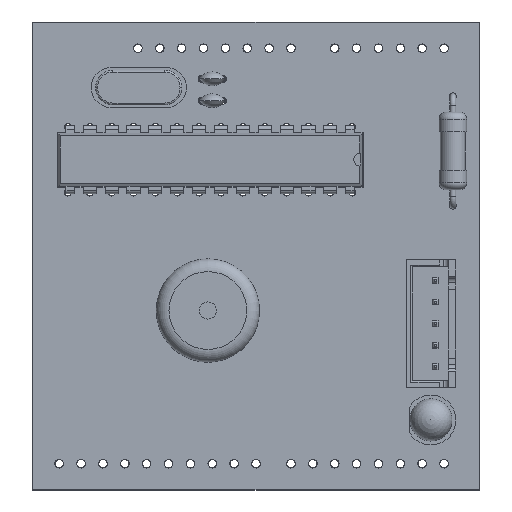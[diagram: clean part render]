
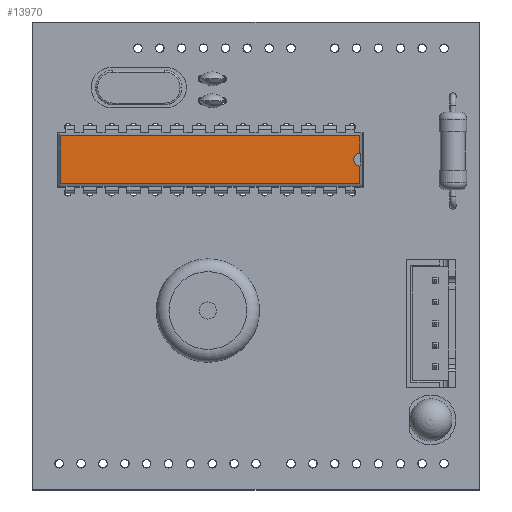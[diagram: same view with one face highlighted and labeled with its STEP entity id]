
A CAD part, top view. The second image highlights one B-rep face of the part: STEP entity #13970.
In plain terms, the highlighted planar face has unit normal (0, 0, 1).
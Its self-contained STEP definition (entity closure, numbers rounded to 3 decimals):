
#7988 = VERTEX_POINT('',#7989);
#7989 = CARTESIAN_POINT('',(6.586,0.871,3.68));
#7994 = EDGE_CURVE('',#7995,#7988,#7997,.T.);
#7995 = VERTEX_POINT('',#7996);
#7996 = CARTESIAN_POINT('',(6.586,-33.891,3.68));
#7997 = LINE('',#7998,#7999);
#7998 = CARTESIAN_POINT('',(6.586,-33.891,3.68));
#7999 = VECTOR('',#8000,1.);
#8000 = DIRECTION('',(0.,1.,0.));
#10754 = VERTEX_POINT('',#10755);
#10755 = CARTESIAN_POINT('',(1.034,0.871,3.68));
#10760 = EDGE_CURVE('',#10761,#10754,#10763,.T.);
#10761 = VERTEX_POINT('',#10762);
#10762 = CARTESIAN_POINT('',(3.064,0.871,3.68));
#10763 = LINE('',#10764,#10765);
#10764 = CARTESIAN_POINT('',(6.586,0.871,3.68));
#10765 = VECTOR('',#10766,1.);
#10766 = DIRECTION('',(-1.,0.,0.));
#10981 = VERTEX_POINT('',#10982);
#10982 = CARTESIAN_POINT('',(4.556,0.871,3.68));
#11086 = EDGE_CURVE('',#7988,#10981,#11087,.T.);
#11087 = LINE('',#11088,#11089);
#11088 = CARTESIAN_POINT('',(6.586,0.871,3.68));
#11089 = VECTOR('',#11090,1.);
#11090 = DIRECTION('',(-1.,0.,0.));
#11200 = VERTEX_POINT('',#11201);
#11201 = CARTESIAN_POINT('',(1.034,-33.891,3.68));
#11206 = EDGE_CURVE('',#10754,#11200,#11207,.T.);
#11207 = LINE('',#11208,#11209);
#11208 = CARTESIAN_POINT('',(1.034,0.871,3.68));
#11209 = VECTOR('',#11210,1.);
#11210 = DIRECTION('',(0.,-1.,0.));
#13959 = EDGE_CURVE('',#11200,#7995,#13960,.T.);
#13960 = LINE('',#13961,#13962);
#13961 = CARTESIAN_POINT('',(1.034,-33.891,3.68));
#13962 = VECTOR('',#13963,1.);
#13963 = DIRECTION('',(1.,0.,0.));
#13970 = ADVANCED_FACE('',(#13971),#13994,.F.);
#13971 = FACE_BOUND('',#13972,.F.);
#13972 = EDGE_LOOP('',(#13973,#13974,#13975,#13976,#13977,#13986,#13993)
  );
#13973 = ORIENTED_EDGE('',*,*,#7994,.F.);
#13974 = ORIENTED_EDGE('',*,*,#13959,.F.);
#13975 = ORIENTED_EDGE('',*,*,#11206,.F.);
#13976 = ORIENTED_EDGE('',*,*,#10760,.F.);
#13977 = ORIENTED_EDGE('',*,*,#13978,.F.);
#13978 = EDGE_CURVE('',#13979,#10761,#13981,.T.);
#13979 = VERTEX_POINT('',#13980);
#13980 = CARTESIAN_POINT('',(3.81,0.196,3.68));
#13981 = CIRCLE('',#13982,0.75);
#13982 = AXIS2_PLACEMENT_3D('',#13983,#13984,#13985);
#13983 = CARTESIAN_POINT('',(3.81,0.946,3.68));
#13984 = DIRECTION('',(0.,-0.,-1.));
#13985 = DIRECTION('',(0.,-1.,0.));
#13986 = ORIENTED_EDGE('',*,*,#13987,.F.);
#13987 = EDGE_CURVE('',#10981,#13979,#13988,.T.);
#13988 = CIRCLE('',#13989,0.75);
#13989 = AXIS2_PLACEMENT_3D('',#13990,#13991,#13992);
#13990 = CARTESIAN_POINT('',(3.81,0.946,3.68));
#13991 = DIRECTION('',(0.,-0.,-1.));
#13992 = DIRECTION('',(0.,-1.,0.));
#13993 = ORIENTED_EDGE('',*,*,#11086,.F.);
#13994 = PLANE('',#13995);
#13995 = AXIS2_PLACEMENT_3D('',#13996,#13997,#13998);
#13996 = CARTESIAN_POINT('',(6.586,-33.891,3.68));
#13997 = DIRECTION('',(-0.,0.,-1.));
#13998 = DIRECTION('',(-0.158,0.987,0.));
